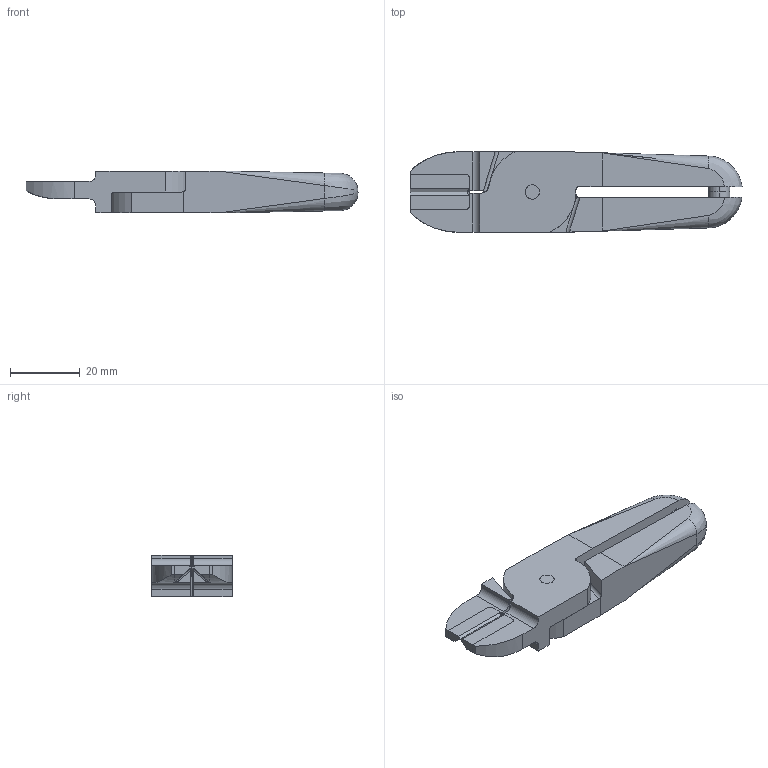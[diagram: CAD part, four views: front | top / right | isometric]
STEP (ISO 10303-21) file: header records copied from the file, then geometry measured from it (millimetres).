
FILE_DESCRIPTION (( 'STEP AP214' ), '1' );
FILE_NAME ('N20BFB.STEP', '2019-11-29T02:58:54', ( '微软用户' ), ( '微软中国' ), 'SwSTEP 2.0', 'SolidWorks 2016', '' );
FILE_SCHEMA (( 'AUTOMOTIVE_DESIGN' ));
Length unit declared in the file: millimetre
Products named in the file (1): N20BFB
Bounding box: 95 x 23 x 12 mm (x, y, z)
Surface area: 8619.2 mm2 (no closed solid volume)
Topology: 0 solids, 4 shells, 99 faces, 292 edges, 187 vertices
Faces by surface type: plane 55, cylinder 30, bspline 14
Full cylindrical faces by diameter (mm): 4.1 x2
Entity records: 4904 total; most frequent: CARTESIAN_POINT 2464, ORIENTED_EDGE 544, DIRECTION 430, EDGE_CURVE 287, VERTEX_POINT 187, LINE 184, VECTOR 184, AXIS2_PLACEMENT_3D 123
